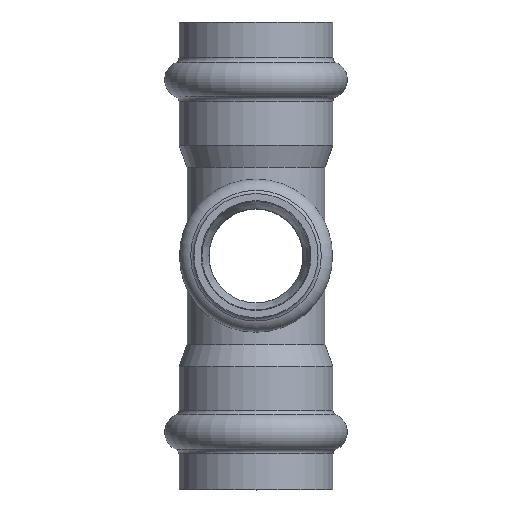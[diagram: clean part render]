
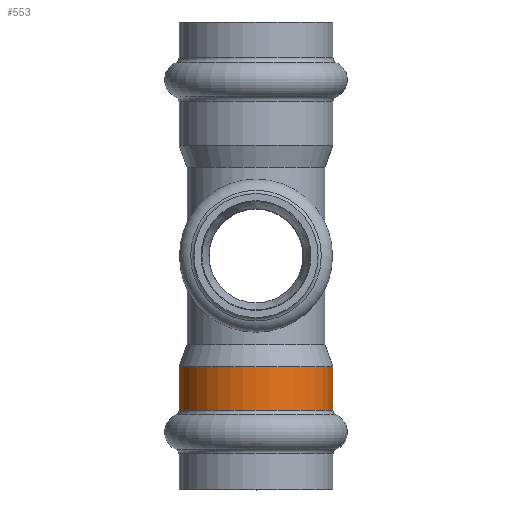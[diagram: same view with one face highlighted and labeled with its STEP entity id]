
A CAD part, top view. The second image highlights one B-rep face of the part: STEP entity #553.
In plain terms, the highlighted cylindrical face has radius 15.63 mm (diameter 31.26 mm), a full revolution.
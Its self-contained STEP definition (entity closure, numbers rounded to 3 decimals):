
#553=ADVANCED_FACE('',(#1029,#1031),#1033,.T.);
#1029=FACE_OUTER_BOUND('',#1030,.T.);
#1030=EDGE_LOOP('',(#1371));
#1031=FACE_OUTER_BOUND('',#1032,.T.);
#1032=EDGE_LOOP('',(#1372));
#1033=CYLINDRICAL_SURFACE('',#1034,15.63);
#1034=AXIS2_PLACEMENT_3D('',#1035,#1036,#1037);
#1035=CARTESIAN_POINT('',(0.,-31.381,0.));
#1036=DIRECTION('',(0.,1.,0.));
#1037=DIRECTION('',(0.,0.,1.));
#1371=ORIENTED_EDGE('',*,*,#1455,.F.);
#1372=ORIENTED_EDGE('',*,*,#1459,.T.);
#1455=EDGE_CURVE('',#1529,#1530,#1531,.T.);
#1459=EDGE_CURVE('',#1538,#1538,#1539,.T.);
#1529=VERTEX_POINT('',#2686);
#1530=VERTEX_POINT('',#2687);
#1531=CIRCLE('',#2688,15.63);
#1538=VERTEX_POINT('',#2707);
#1539=CIRCLE('',#2708,15.63);
#2686=CARTESIAN_POINT('',(0.,-22.5,15.63));
#2687=CARTESIAN_POINT('',(0.,-22.5,15.63));
#2688=AXIS2_PLACEMENT_3D('',#2689,#2690,#2691);
#2689=CARTESIAN_POINT('',(0.,-22.5,0.));
#2690=DIRECTION('',(0.,1.,0.));
#2691=DIRECTION('',(0.,0.,1.));
#2707=CARTESIAN_POINT('',(0.,-31.381,15.63));
#2708=AXIS2_PLACEMENT_3D('',#2709,#2710,#2711);
#2709=CARTESIAN_POINT('',(0.,-31.381,0.));
#2710=DIRECTION('',(0.,1.,0.));
#2711=DIRECTION('',(0.,0.,1.));
